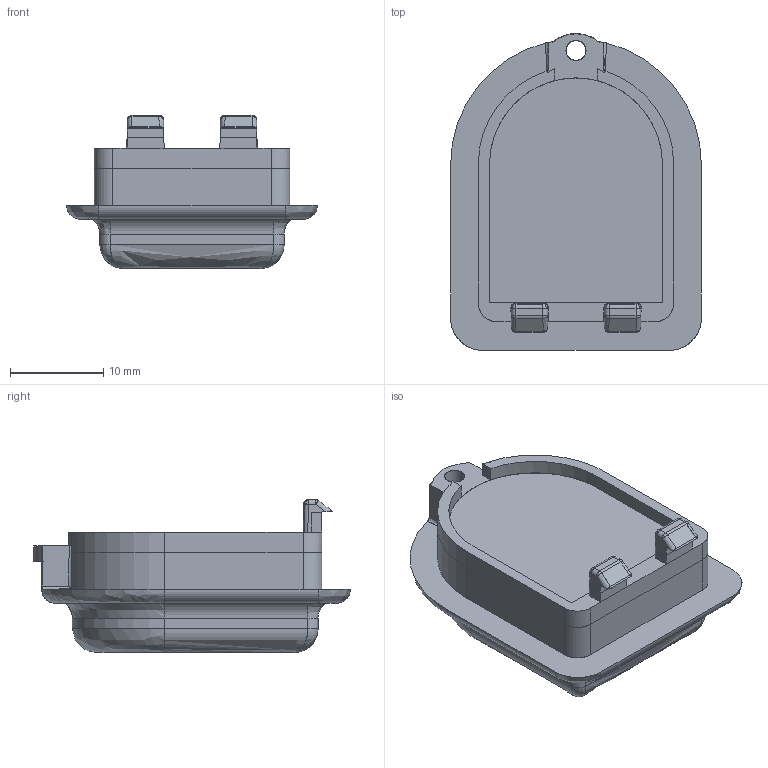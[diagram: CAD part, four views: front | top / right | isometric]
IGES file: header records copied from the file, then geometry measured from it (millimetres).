
Start section: SolidWorks IGES file using analytic representation for surfaces
Global section: file name: Z:\Desktop\DigitSensor\813Deisgn\Origin_outerskin0.6\DigitPure_Outer0.6.IGS; native system: SolidWorks 2023; preprocessor: SolidWorks 2023; author: qingzheng; date: 240813.145452; units: millimetre
Bounding box: 26.95 x 34.04 x 16.45 mm (x, y, z)
Surface area: 6836.7 mm2 (no closed solid volume)
Topology: 0 solids, 0 shells, 259 faces, 2203 edges, 2194 vertices
Faces by surface type: bspline 149, revolution 110
